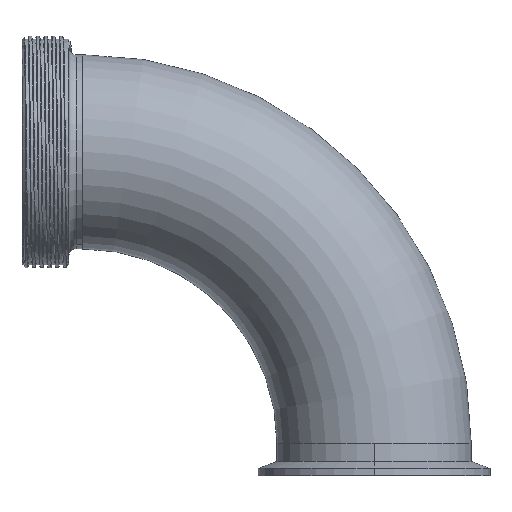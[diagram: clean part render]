
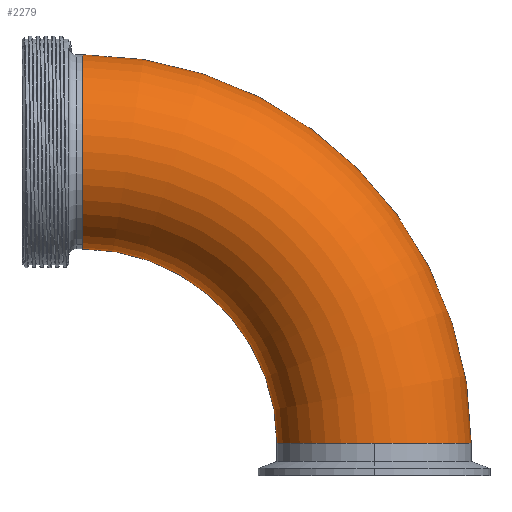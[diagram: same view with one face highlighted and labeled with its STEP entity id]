
A CAD part, top view. The second image highlights one B-rep face of the part: STEP entity #2279.
In plain terms, the highlighted toroidal (fillet/blend) face has major radius 114.3 mm and minor radius 38.1 mm.
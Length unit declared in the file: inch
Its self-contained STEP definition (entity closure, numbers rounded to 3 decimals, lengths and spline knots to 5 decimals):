
#537 = DIRECTION ( 'NONE',  ( 0., 0., 1. ) ) ;
#552 = VERTEX_POINT ( 'NONE', #3588 ) ;
#555 = DIRECTION ( 'NONE',  ( 0., 1., 0. ) ) ;
#578 = CARTESIAN_POINT ( 'NONE',  ( 4.5, 0., 0. ) ) ;
#719 = EDGE_CURVE ( 'NONE', #4198, #4164, #873, .T. ) ;
#734 = CIRCLE ( 'NONE', #3076, 1.5 ) ;
#774 = EDGE_CURVE ( 'NONE', #4164, #552, #878, .T. ) ;
#820 = EDGE_CURVE ( 'NONE', #4821, #552, #734, .T. ) ;
#873 = CIRCLE ( 'NONE', #3232, 1.5 ) ;
#878 = CIRCLE ( 'NONE', #3169, 6. ) ;
#948 = CARTESIAN_POINT ( 'NONE',  ( 0., 6., 0. ) ) ;
#1065 = DIRECTION ( 'NONE',  ( -1., 0., 0. ) ) ;
#1075 = ORIENTED_EDGE ( 'NONE', *, *, #774, .F. ) ;
#1084 = DIRECTION ( 'NONE',  ( 0., 0., -1. ) ) ;
#1099 = CARTESIAN_POINT ( 'NONE',  ( 0., 0., 0. ) ) ;
#1269 = DIRECTION ( 'NONE',  ( 0., 0., 1. ) ) ;
#1302 = DIRECTION ( 'NONE',  ( -1., 0., 0. ) ) ;
#1323 = CARTESIAN_POINT ( 'NONE',  ( 0., 4.5, 0. ) ) ;
#1379 = CARTESIAN_POINT ( 'NONE',  ( 3., 0., 0. ) ) ;
#1402 = CARTESIAN_POINT ( 'NONE',  ( 0., 0., 0. ) ) ;
#1596 = AXIS2_PLACEMENT_3D ( 'NONE', #1402, #4072, #1828 ) ;
#1828 = DIRECTION ( 'NONE',  ( -1., 0., 0. ) ) ;
#1916 = AXIS2_PLACEMENT_3D ( 'NONE', #2346, #2298, #2291 ) ;
#2235 = CARTESIAN_POINT ( 'NONE',  ( 0., 3., 0. ) ) ;
#2279 = ADVANCED_FACE ( 'NONE', ( #3978 ), #3973, .T. ) ;
#2291 = DIRECTION ( 'NONE',  ( -1., 0., 0. ) ) ;
#2298 = DIRECTION ( 'NONE',  ( 0., 0., -1. ) ) ;
#2346 = CARTESIAN_POINT ( 'NONE',  ( 0., 0., 0. ) ) ;
#2974 = CIRCLE ( 'NONE', #1596, 3. ) ;
#3076 = AXIS2_PLACEMENT_3D ( 'NONE', #578, #555, #537 ) ;
#3169 = AXIS2_PLACEMENT_3D ( 'NONE', #1099, #1084, #1065 ) ;
#3232 = AXIS2_PLACEMENT_3D ( 'NONE', #1323, #1302, #1269 ) ;
#3588 = CARTESIAN_POINT ( 'NONE',  ( 6., 0., 0. ) ) ;
#3695 = EDGE_LOOP ( 'NONE', ( #1075, #4034, #4474, #3937 ) ) ;
#3937 = ORIENTED_EDGE ( 'NONE', *, *, #820, .T. ) ;
#3973 = TOROIDAL_SURFACE ( 'NONE', #1916, 4.5, 1.5 ) ;
#3978 = FACE_OUTER_BOUND ( 'NONE', #3695, .T. ) ;
#4034 = ORIENTED_EDGE ( 'NONE', *, *, #719, .F. ) ;
#4072 = DIRECTION ( 'NONE',  ( 0., 0., -1. ) ) ;
#4164 = VERTEX_POINT ( 'NONE', #948 ) ;
#4198 = VERTEX_POINT ( 'NONE', #2235 ) ;
#4285 = EDGE_CURVE ( 'NONE', #4198, #4821, #2974, .T. ) ;
#4474 = ORIENTED_EDGE ( 'NONE', *, *, #4285, .T. ) ;
#4821 = VERTEX_POINT ( 'NONE', #1379 ) ;
